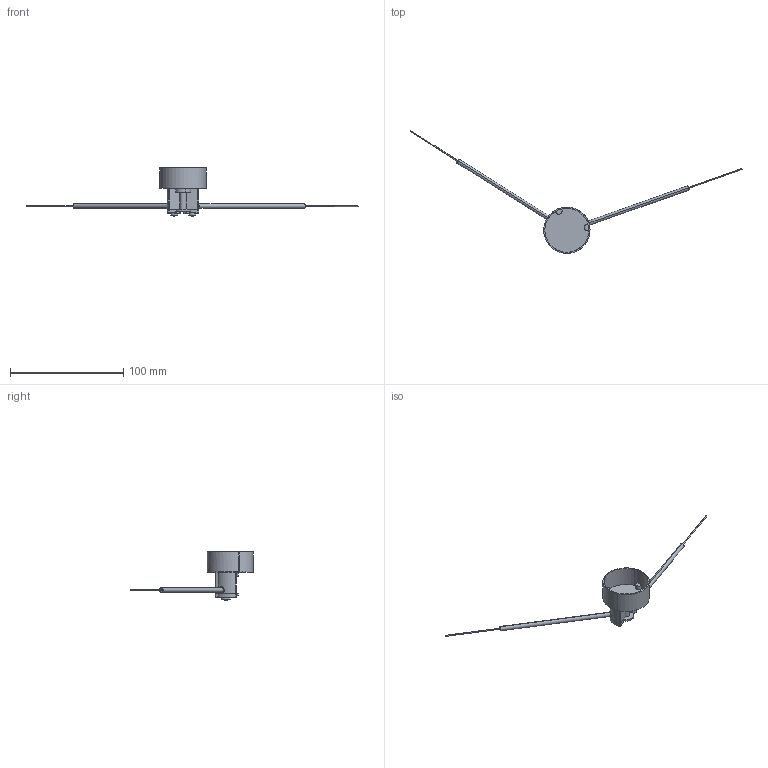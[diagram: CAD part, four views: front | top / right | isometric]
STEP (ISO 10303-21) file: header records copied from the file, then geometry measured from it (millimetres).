
FILE_DESCRIPTION (( 'STEP AP203' ), '1' );
FILE_NAME ('FU-10PRO.STEP', '2016-06-21T00:38:49', ( '' ), ( '' ), 'SwSTEP 2.0', 'SolidWorks 2014', '' );
FILE_SCHEMA (( 'CONFIG_CONTROL_DESIGN' ));
Length unit declared in the file: metre
Products named in the file (6): PROA10S-#-#-#-FR (1); PROA10S-#-#-#-FR (7); FU-10PRO; PROA10S-#-#-#-FR (2); PROA10S-#-#-#-FR (5); PROA10S-#-#-#-FU (3)
Assembly tree (9 placements, depth 2):
  FU-10PRO
    PROA10S-#-#-#-FR (2)
    PROA10S-#-#-#-FR (1)  x2
    PROA10S-#-#-#-FR (5)  x2
    PROA10S-#-#-#-FR (7)  x2
    PROA10S-#-#-#-FU (3)  x2
Bounding box: 293.74 x 108.71 x 42.61 mm (x, y, z)
Volume: 12457.9 mm3; surface area: 14314.3 mm2
Topology: 10 solids, 10 shells, 171 faces, 430 edges, 284 vertices
Faces by surface type: cylinder 84, plane 83, bspline 4
Entity records: 3955 total; most frequent: CARTESIAN_POINT 699, DIRECTION 569, ORIENTED_EDGE 510, EDGE_CURVE 255, AXIS2_PLACEMENT_3D 221, VERTEX_POINT 169, LINE 127, VECTOR 127
